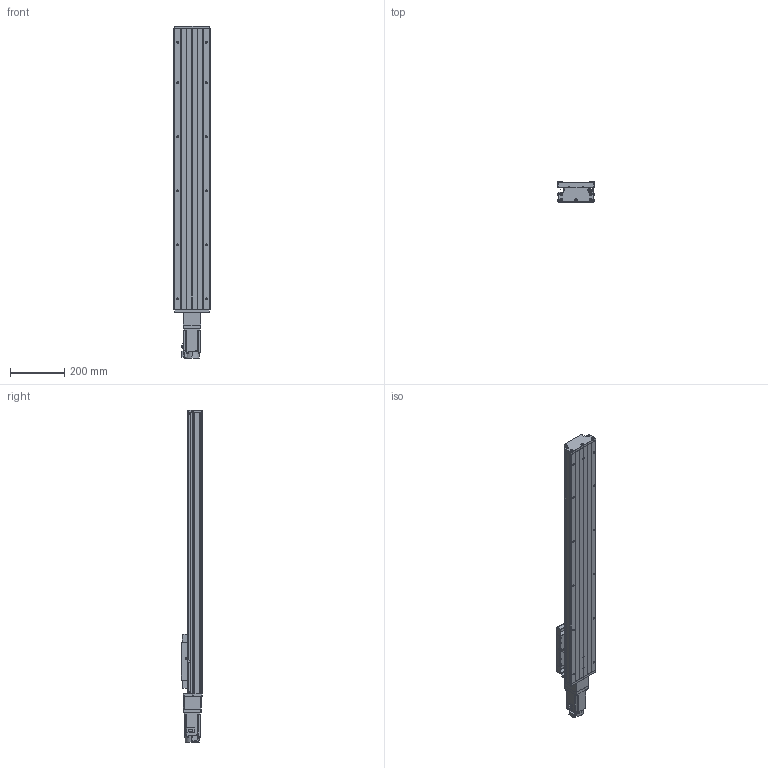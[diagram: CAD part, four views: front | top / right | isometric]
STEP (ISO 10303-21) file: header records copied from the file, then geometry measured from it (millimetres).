
FILE_DESCRIPTION (( 'STEP AP203' ), '1' );
FILE_NAME ('GTH14-800-BC-M40-C4.step', '2023-06-30T08:35:34', ( '微软用户' ), ( '微软中国' ), 'SwSTEP 2.0', 'SolidWorks 2020', '' );
FILE_SCHEMA (( 'CONFIG_CONTROL_DESIGN' ));
Length unit declared in the file: millimetre
Products named in the file (20): GTH14-005; GBT 70.1-M3℅5; HG-KN43J-S100; GB1155-6X6; GBT77-2000 M3×3; GBT 70.3-M3℅8; GBT70.1 M5℅16; GTH14-031; GTH14-800-BC-M40-C4; GBT 70.2-M3¡Á5_M3¡Á6; す晦芛蹟隊 M3℅5; GTH14-001_800; CTHA60-017; CTHA86-006-1_M40; GTH14-002_GTH14-002; EE_SX911P_R; CTHA86-013; GTH14-004; CTHA60-016; CTHA86-027-1
Assembly tree (57 placements, depth 2):
  GTH14-800-BC-M40-C4
    GTH14-001_800
    GTH14-002_GTH14-002
    GTH14-004
    GTH14-005
    GB1155-6X6  x2
    GBT70.1 M5℅16  x10
    GBT 70.2-M3¡Á5_M3¡Á6  x8
    CTHA60-017  x3
    EE_SX911P_R  x3
    CTHA60-016  x2
    GBT 70.1-M3℅5  x6
    GBT77-2000 M3×3  x6
    GTH14-031
    す晦芛蹟隊 M3℅5  x6
    CTHA86-006-1_M40
    CTHA86-013
    CTHA86-027-1
    HG-KN43J-S100
    GBT 70.3-M3℅8  x2
Bounding box: 135 x 78 x 1228.7 mm (x, y, z)
Volume: 6090020.7 mm3; surface area: 952824.1 mm2
Topology: 60 solids, 60 shells, 2424 faces, 5781 edges, 3570 vertices
Faces by surface type: plane 1304, cylinder 656, cone 304, torus 120, sphere 20, bspline 20
Entity records: 44728 total; most frequent: CARTESIAN_POINT 9947, DIRECTION 6576, ORIENTED_EDGE 6446, EDGE_CURVE 3223, AXIS2_PLACEMENT_3D 2243, LINE 2090, VECTOR 2090, VERTEX_POINT 2038
